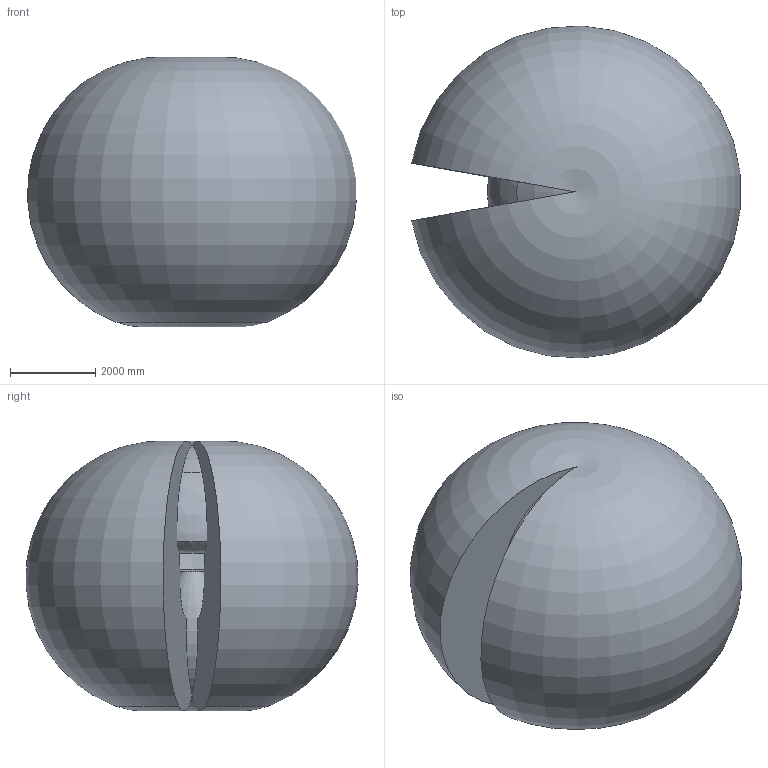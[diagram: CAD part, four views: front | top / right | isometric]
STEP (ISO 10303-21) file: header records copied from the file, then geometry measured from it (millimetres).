
FILE_DESCRIPTION (( 'STEP AP214' ), '1' );
FILE_NAME ('IRB6750S_215kg-390_OC_00_Working-envelope.step', '2026-05-13T05:20:37', ( '' ), ( '' ), 'SwSTEP 2.0', 'SolidWorks 2024', '' );
FILE_SCHEMA (( 'AUTOMOTIVE_DESIGN' ));
Length unit declared in the file: millimetre
Products named in the file (1): IRB6750S_215kg-390_OC_00_Working-envelope
Bounding box: 7727.49 x 7802.12 x 6344.05 mm (x, y, z)
Volume: 192510444826.3 mm3; surface area: 237075655.3 mm2
Topology: 1 solids, 1 shells, 21 faces, 57 edges, 34 vertices
Faces by surface type: torus 10, plane 6, cylinder 4, bspline 1
Entity records: 1865 total; most frequent: CARTESIAN_POINT 1363, ORIENTED_EDGE 106, DIRECTION 96, EDGE_CURVE 53, AXIS2_PLACEMENT_3D 46, VERTEX_POINT 34, CIRCLE 25, B_SPLINE_CURVE_WITH_KNOTS 24
